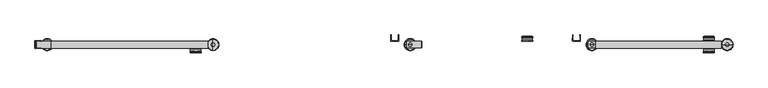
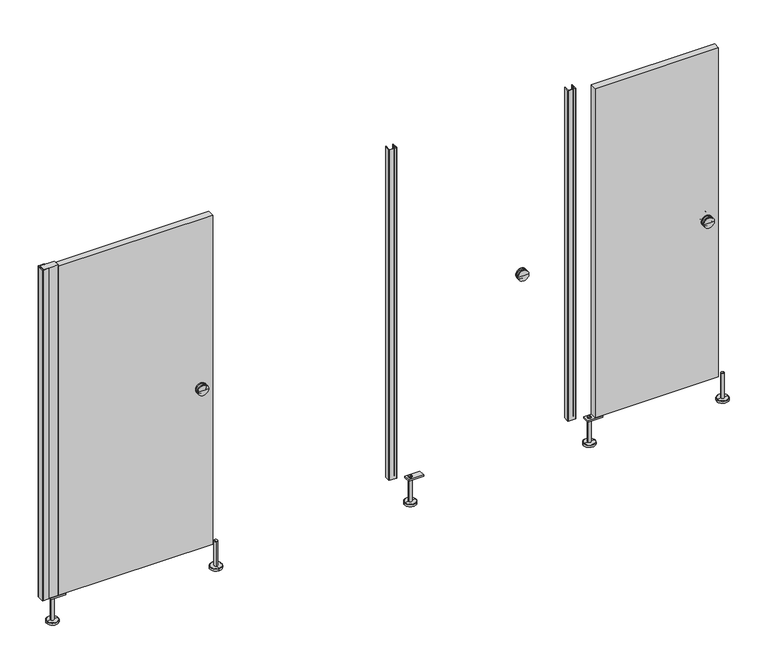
"""IFC4 building model written with IfcOpenShell, lengths in millimetres: proxy geometry, Partition_EuroStyle-Bradley_Corp-1AMB-4StandardStall-NEP-LOFT : Partition_EuroStyle-Bradley_Corp-1AMB-4StandardStall-NEP-LOFT."""

from ifc_helpers import new_model, si_unit, point, frame, frame_2d, origin, place, context, project, spatial, polyline, circle_curve, ellipse_curve, trimmed, segment, composite_curve, outline, extrude, source, transform, mapped, element, save
from ifc_brep_helpers import plane_surface, cylinder_surface, revolved_surface, advanced_brep


def specialty_equipment_0e989953(model_context):
    return source(origin(), model_context, "Body", "SolidModel", [
        advanced_brep(
        [(713.7, -1560.0203251, 1050.0), (742.275, -1560.0203251, 1050.0), (685.125, -1560.0203251, 1050.0), (742.275, -1564.7828251, 1050.0), (685.125, -1564.7828251, 1050.0), (685.125, -1579.0703251, 1050.0), (742.275, -1579.0703251, 1050.0), (742.275, -1583.8328251, 1050.0), (685.125, -1583.8328251, 1050.0), (686.7125, -1577.4828251, 1050.0), (740.6875, -1577.4828251, 1050.0), (686.7125, -1566.3703251, 1050.0), (740.6875, -1566.3703251, 1050.0), (713.7, -1585.4203251, 1050.0)],
        [
            (0, 1),
            (1, 2, circle_curve(frame((713.7, -1560.0203251, 1050.0), z_axis=(0.0, 1.0, 0.0), x_axis=(1.0, 0.0, 0.0)), 28.575)),
            (2, 0),
            (2, 1, circle_curve(frame((713.7, -1560.0203251, 1050.0), z_axis=(0.0, 1.0, 0.0), x_axis=(1.0, 0.0, 0.0)), 28.575)),
            (1, 3),
            (3, 4, circle_curve(frame((713.7, -1564.7828251, 1050.0), z_axis=(0.0, 1.0, 0.0), x_axis=(1.0, 0.0, 0.0)), 28.575)),
            (4, 2),
            (4, 3, circle_curve(frame((713.7, -1564.7828251, 1050.0), z_axis=(0.0, 1.0, 0.0), x_axis=(1.0, 0.0, 0.0)), 28.575)),
            (5, 6, circle_curve(frame((713.7, -1579.0703251, 1050.0), z_axis=(0.0, -1.0, 0.0), x_axis=(1.0, 0.0, 0.0)), 28.575)),
            (6, 7),
            (7, 8, circle_curve(frame((713.7, -1583.8328251, 1050.0), z_axis=(0.0, 1.0, 0.0), x_axis=(1.0, 0.0, 0.0)), 28.575)),
            (8, 5),
            (6, 5, circle_curve(frame((713.7, -1579.0703251, 1050.0), z_axis=(0.0, -1.0, 0.0), x_axis=(1.0, 0.0, 0.0)), 28.575)),
            (8, 7, circle_curve(frame((713.7, -1583.8328251, 1050.0), z_axis=(0.0, 1.0, 0.0), x_axis=(1.0, 0.0, 0.0)), 28.575)),
            (9, 10, circle_curve(frame((713.7, -1577.4828251, 1050.0), z_axis=(0.0, -1.0, 0.0), x_axis=(1.0, 0.0, 0.0)), 26.9875)),
            (10, 6, circle_curve(frame((742.275, -1577.4828251, 1050.0), z_axis=(0.0, 0.0, 1.0), x_axis=(1.0, 0.0, 0.0)), 1.5875)),
            (5, 9, circle_curve(frame((685.125, -1577.4828251, 1050.0), z_axis=(0.0, 0.0, 1.0), x_axis=(-1.0, 0.0, 0.0)), 1.5875)),
            (10, 9, circle_curve(frame((713.7, -1577.4828251, 1050.0), z_axis=(0.0, -1.0, 0.0), x_axis=(1.0, 0.0, 0.0)), 26.9875)),
            (11, 12, circle_curve(frame((713.7, -1566.3703251, 1050.0), z_axis=(0.0, -1.0, 0.0), x_axis=(1.0, 0.0, 0.0)), 26.9875)),
            (12, 10),
            (9, 11),
            (12, 11, circle_curve(frame((713.7, -1566.3703251, 1050.0), z_axis=(0.0, -1.0, 0.0), x_axis=(1.0, 0.0, 0.0)), 26.9875)),
            (3, 12, circle_curve(frame((742.275, -1566.3703251, 1050.0), z_axis=(0.0, 0.0, 1.0), x_axis=(1.0, 0.0, 0.0)), 1.5875)),
            (11, 4, circle_curve(frame((685.125, -1566.3703251, 1050.0), z_axis=(0.0, 0.0, 1.0), x_axis=(-1.0, 0.0, 0.0)), 1.5875)),
            (7, 13, circle_curve(frame((717.3941234, -1393.9457959, 1050.0), z_axis=(0.0, 0.0, -1.0), x_axis=(1.0, 0.0, 0.0)), 191.5101613)),
            (13, 8, circle_curve(frame((710.0058766, -1393.9457959, 1050.0), z_axis=(0.0, 0.0, -1.0), x_axis=(-1.0, 0.0, 0.0)), 191.5101613)),
        ],
        [
            plane_surface(frame((713.7, -1560.0203251, 1050.0), z_axis=(0.0, 1.0, 0.0), x_axis=(1.0, 0.0, 0.0))),
            cylinder_surface(frame((713.7, -1560.0203251, 1050.0), z_axis=(0.0, 1.0, 0.0), x_axis=(1.0, 0.0, 0.0)), 28.575),
            revolved_surface(trimmed(ellipse_curve(frame((742.275, -1577.4828251, 1050.0), z_axis=(0.0, 0.0, -1.0), x_axis=(1.0, 0.0, 0.0)), 1.5875, 1.5875), [point((742.275, -1579.0703251, 1050.0))], [point((740.6875, -1577.4828251, 1050.0))], True, "CARTESIAN"), (713.7, -1560.0203251, 1050.0), (0.0, 1.0, 0.0)),
            cylinder_surface(frame((713.7, -1560.0203251, 1050.0), z_axis=(0.0, 1.0, 0.0), x_axis=(1.0, 0.0, 0.0)), 26.9875),
            revolved_surface(trimmed(ellipse_curve(frame((742.275, -1566.3703251, 1050.0), z_axis=(0.0, 0.0, -1.0), x_axis=(1.0, 0.0, 0.0)), 1.5875, 1.5875), [point((740.6875, -1566.3703251, 1050.0))], [point((742.275, -1564.7828251, 1050.0))], True, "CARTESIAN"), (713.7, -1560.0203251, 1050.0), (0.0, 1.0, 0.0)),
            revolved_surface(trimmed(ellipse_curve(frame((717.3941234, -1393.9457959, 1050.0), z_axis=(0.0, 0.0, 1.0), x_axis=(1.0, 0.0, 0.0)), 191.5101613, 191.5101613), [point((713.7, -1585.4203251, 1050.0))], [point((742.275, -1583.8328251, 1050.0))], True, "CARTESIAN"), (713.7, -1560.0203251, 1050.0), (0.0, 1.0, 0.0)),
        ],
        [
            (0, [[1, 2, 3]]),
            (0, [[-3, 4, -1]]),
            (1, [[-2, 5, 6, 7]]),
            (1, [[-4, -7, 8, -5]]),
            (1, [[9, 10, 11, 12]]),
            (1, [[13, -12, 14, -10]]),
            (2, [[15, 16, -9, 17]]),
            (2, [[18, -17, -13, -16]]),
            (3, [[19, 20, -15, 21]]),
            (3, [[22, -21, -18, -20]]),
            (4, [[-6, 23, -19, 24]]),
            (4, [[-8, -24, -22, -23]]),
            (5, [[-11, 25, 26]]),
            (5, [[-14, -26, -25]]),
        ],
    ),
        extrude(outline(polyline([(-43.0030863, -1524.0), (777.2, -1524.0), (777.2, -1560.0203251), (-43.0030863, -1560.0203251), (-43.0030863, -1524.0)])), frame((0.0, 0.0, 150.1179687), z_axis=(0.0, 0.0, 1.0), x_axis=(1.0, 0.0, 0.0)), (0.0, 0.0, 1.0), 1845.8820313),
        extrude(outline(composite_curve([segment(polyline([(-94.4999998, -1521.518717), (-94.4999998, -1523.0173026)]), True, "CONTINUOUS"), segment(trimmed(circle_curve(frame_2d((-95.4990918, -1523.0137352)), 0.9990984), [point((-94.4999998, -1523.0173026))], [point((-96.3787798, -1523.4873879))], False, "CARTESIAN"), True, "CONTINUOUS"), segment(polyline([(-96.3787798, -1523.4873879), (-103.6424298, -1523.3662779)]), True, "CONTINUOUS"), segment(trimmed(circle_curve(frame_2d((-104.4999449, -1522.848732)), 1.0015917), [point((-103.6424298, -1523.3662779))], [point((-105.3742398, -1523.3373979))], False, "CARTESIAN"), True, "CONTINUOUS"), segment(polyline([(-105.3742398, -1523.3373979), (-123.0104531, -1523.0433424)]), True, "CONTINUOUS"), segment(trimmed(circle_curve(frame_2d((-122.9997796, -1525.0435342)), 2.0002204), [point((-123.0104531, -1523.0433424))], [point((-125.0, -1525.0435342))], True, "CARTESIAN"), True, "CONTINUOUS"), segment(polyline([(-125.0, -1525.0435342), (-125.0, -1558.9278332)]), True, "CONTINUOUS"), segment(trimmed(circle_curve(frame_2d((-123.0009061, -1558.9768528)), 1.9996948), [point((-125.0, -1558.9278332))], [point((-123.0, -1560.9765475))], True, "CARTESIAN"), True, "CONTINUOUS"), segment(polyline([(-123.0, -1560.9765475), (-105.3739987, -1560.6824961)]), True, "CONTINUOUS"), segment(trimmed(circle_curve(frame_2d((-104.4999449, -1561.1715932)), 1.0015917), [point((-105.3739987, -1560.6824961))], [point((-103.6424298, -1560.6540473))], False, "CARTESIAN"), True, "CONTINUOUS"), segment(polyline([(-103.6424298, -1560.6540473), (-96.3787798, -1560.5329373)]), True, "CONTINUOUS"), segment(trimmed(circle_curve(frame_2d((-95.4990918, -1561.0065899)), 0.9990984), [point((-96.3787798, -1560.5329373))], [point((-94.4999998, -1561.0030225))], False, "CARTESIAN"), True, "CONTINUOUS"), segment(polyline([(-94.4999998, -1561.0030225), (-94.4999998, -1562.5016081), (-124.97082, -1563.0099473)]), True, "CONTINUOUS"), segment(trimmed(circle_curve(frame_2d((-124.97082, -1560.9807672)), 2.02918), [point((-124.97082, -1563.0099473))], [point((-127.0, -1560.9807672))], False, "CARTESIAN"), True, "CONTINUOUS"), segment(polyline([(-127.0, -1560.9807672), (-127.0, -1523.0395579)]), True, "CONTINUOUS"), segment(trimmed(circle_curve(frame_2d((-124.97082, -1523.0395579)), 2.02918), [point((-127.0, -1523.0395579))], [point((-124.97082, -1521.0103779))], False, "CARTESIAN"), True, "CONTINUOUS"), segment(polyline([(-124.97082, -1521.0103779), (-94.4999998, -1521.518717)]), True, "CONTINUOUS")], self_intersect=False)), frame((0.0, 0.0, 150.0), z_axis=(0.0, 0.0, 1.0), x_axis=(1.0, 0.0, 0.0)), (0.0, 0.0, 1.0), 1855.0),
        extrude(outline(polyline([(146.0000008, -82.1018307), (138.0669895, -82.1018307), (138.0669895, -2.2545975), (146.0000008, -2.3531596), (146.0000008, -82.1018307)])), frame((0.0, -1559.4726626, 0.0), z_axis=(0.0, 1.0, 0.0), x_axis=(0.0, 0.0, 1.0)), (0.0, 0.0, 1.0), 34.925),
        advanced_brep(
        [(-54.5018316, -1542.0101626, 150.0000008), (-72.501831, -1542.0101626, 150.0000008), (-72.501831, -1542.0101626, 12.0000001), (-54.5018316, -1542.0101626, 12.0000001), (-63.5018313, -1542.0101626, 150.0000008), (-32.5018323, -1542.0101626, 0.0), (-94.5018302, -1542.0101626, 0.0), (-63.5018313, -1542.0101626, 0.0), (-32.5018323, -1542.0101626, 10.0000001), (-94.5018302, -1542.0101626, 10.0000001), (-34.5042443, -1542.0101626, 12.0000001), (-92.4994183, -1542.0101626, 12.0000001)],
        [
            (0, 1, circle_curve(frame((-63.5018313, -1542.0101626, 150.0000008), z_axis=(0.0, 0.0, -1.0), x_axis=(-1.0, 0.0, 0.0)), 8.9999997)),
            (1, 2),
            (2, 3, circle_curve(frame((-63.5018313, -1542.0101626, 12.0000001), z_axis=(0.0, 0.0, 1.0), x_axis=(-1.0, 0.0, 0.0)), 8.9999997)),
            (3, 0),
            (1, 0, circle_curve(frame((-63.5018313, -1542.0101626, 150.0000008), z_axis=(0.0, 0.0, -1.0), x_axis=(-1.0, 0.0, 0.0)), 8.9999997)),
            (3, 2, circle_curve(frame((-63.5018313, -1542.0101626, 12.0000001), z_axis=(0.0, 0.0, 1.0), x_axis=(-1.0, 0.0, 0.0)), 8.9999997)),
            (4, 1),
            (0, 4),
            (5, 6, circle_curve(frame((-63.5018313, -1542.0101626, 0.0), z_axis=(0.0, 0.0, -1.0), x_axis=(-1.0, 0.0, 0.0)), 30.9999989)),
            (6, 7),
            (7, 5),
            (6, 5, circle_curve(frame((-63.5018313, -1542.0101626, 0.0), z_axis=(0.0, 0.0, -1.0), x_axis=(-1.0, 0.0, 0.0)), 30.9999989)),
            (8, 9, circle_curve(frame((-63.5018313, -1542.0101626, 10.0000001), z_axis=(0.0, 0.0, -1.0), x_axis=(-1.0, 0.0, 0.0)), 30.9999989)),
            (9, 6),
            (5, 8),
            (9, 8, circle_curve(frame((-63.5018313, -1542.0101626, 10.0000001), z_axis=(0.0, 0.0, -1.0), x_axis=(-1.0, 0.0, 0.0)), 30.9999989)),
            (10, 11, circle_curve(frame((-63.5018313, -1542.0101626, 12.0000001), z_axis=(0.0, 0.0, -1.0), x_axis=(-1.0, 0.0, 0.0)), 28.997587)),
            (11, 9),
            (8, 10),
            (11, 10, circle_curve(frame((-63.5018313, -1542.0101626, 12.0000001), z_axis=(0.0, 0.0, -1.0), x_axis=(-1.0, 0.0, 0.0)), 28.997587)),
            (2, 11),
            (10, 3),
        ],
        [
            cylinder_surface(frame((-63.5018313, -1542.0101626, 0.0), z_axis=(0.0, 0.0, 1.0), x_axis=(-1.0, 0.0, 0.0)), 8.9999997),
            plane_surface(frame((-63.5018313, -1542.0101626, 150.0000008), z_axis=(0.0, 0.0, 1.0), x_axis=(-1.0, 0.0, 0.0))),
            plane_surface(frame((-63.5018313, -1542.0101626, 0.0), z_axis=(0.0, 0.0, -1.0), x_axis=(-1.0, 0.0, 0.0))),
            cylinder_surface(frame((-63.5018313, -1542.0101626, 0.0), z_axis=(0.0, 0.0, 1.0), x_axis=(-1.0, 0.0, 0.0)), 30.9999989),
            revolved_surface(polyline([(-94.5018302, -1542.0101626, 10.0000001), (-92.4994183, -1542.0101626, 12.0000001)]), (-63.5018313, -1542.0101626, 0.0), (0.0, 0.0, 1.0)),
            plane_surface(frame((-63.5018313, -1542.0101626, 12.0000001), z_axis=(0.0, 0.0, 1.0), x_axis=(-1.0, 0.0, 0.0))),
        ],
        [
            (0, [[1, 2, 3, 4]]),
            (0, [[5, -4, 6, -2]]),
            (1, [[7, -1, 8]]),
            (1, [[-8, -5, -7]]),
            (2, [[9, 10, 11]]),
            (2, [[12, -11, -10]]),
            (3, [[13, 14, -9, 15]]),
            (3, [[16, -15, -12, -14]]),
            (4, [[17, 18, -13, 19]]),
            (4, [[20, -19, -16, -18]]),
            (5, [[-3, 21, -17, 22]]),
            (5, [[-6, -22, -20, -21]]),
        ],
    ),
        extrude(outline(polyline([(-117.000072, -1524.0), (-43.0032348, -1524.0), (-43.0032348, -1560.0203251), (-117.000072, -1560.0203251), (-117.000072, -1524.0)])), frame((0.0, 0.0, 150.0), z_axis=(0.0, 0.0, 1.0), x_axis=(1.0, 0.0, 0.0)), (0.0, 0.0, 1.0), 1855.0),
        advanced_brep(
        [(804.7217652, -1532.9996552, 150.0000008), (804.7217652, -1550.9996545, 150.0000008), (804.7217652, -1550.9996545, 12.0000001), (804.7217652, -1532.9996552, 12.0000001), (804.7217652, -1541.9996549, 150.0000008), (804.7217652, -1510.9996559, 0.0), (804.7217652, -1572.9996538, 0.0), (804.7217652, -1541.9996549, 0.0), (804.7217652, -1510.9996559, 10.0000001), (804.7217652, -1572.9996538, 10.0000001), (804.7217652, -1513.0020678, 12.0000001), (804.7217652, -1570.9972419, 12.0000001)],
        [
            (0, 1, circle_curve(frame((804.7217652, -1541.9996549, 150.0000008), z_axis=(0.0, 0.0, -1.0), x_axis=(0.0, -1.0, 0.0)), 8.9999997)),
            (1, 2),
            (2, 3, circle_curve(frame((804.7217652, -1541.9996549, 12.0000001), z_axis=(0.0, 0.0, 1.0), x_axis=(0.0, -1.0, 0.0)), 8.9999997)),
            (3, 0),
            (1, 0, circle_curve(frame((804.7217652, -1541.9996549, 150.0000008), z_axis=(0.0, 0.0, -1.0), x_axis=(0.0, -1.0, 0.0)), 8.9999997)),
            (3, 2, circle_curve(frame((804.7217652, -1541.9996549, 12.0000001), z_axis=(0.0, 0.0, 1.0), x_axis=(0.0, -1.0, 0.0)), 8.9999997)),
            (4, 1),
            (0, 4),
            (5, 6, circle_curve(frame((804.7217652, -1541.9996549, 0.0), z_axis=(0.0, 0.0, -1.0), x_axis=(0.0, -1.0, 0.0)), 30.9999989)),
            (6, 7),
            (7, 5),
            (6, 5, circle_curve(frame((804.7217652, -1541.9996549, 0.0), z_axis=(0.0, 0.0, -1.0), x_axis=(0.0, -1.0, 0.0)), 30.9999989)),
            (8, 9, circle_curve(frame((804.7217652, -1541.9996549, 10.0000001), z_axis=(0.0, 0.0, -1.0), x_axis=(0.0, -1.0, 0.0)), 30.9999989)),
            (9, 6),
            (5, 8),
            (9, 8, circle_curve(frame((804.7217652, -1541.9996549, 10.0000001), z_axis=(0.0, 0.0, -1.0), x_axis=(0.0, -1.0, 0.0)), 30.9999989)),
            (10, 11, circle_curve(frame((804.7217652, -1541.9996549, 12.0000001), z_axis=(0.0, 0.0, -1.0), x_axis=(0.0, -1.0, 0.0)), 28.997587)),
            (11, 9),
            (8, 10),
            (11, 10, circle_curve(frame((804.7217652, -1541.9996549, 12.0000001), z_axis=(0.0, 0.0, -1.0), x_axis=(0.0, -1.0, 0.0)), 28.997587)),
            (2, 11),
            (10, 3),
        ],
        [
            cylinder_surface(frame((804.7217652, -1541.9996549, 0.0), z_axis=(0.0, 0.0, 1.0), x_axis=(0.0, -1.0, 0.0)), 8.9999997),
            plane_surface(frame((804.7217652, -1541.9996549, 150.0000008), z_axis=(0.0, 0.0, 1.0), x_axis=(0.0, -1.0, 0.0))),
            plane_surface(frame((804.7217652, -1541.9996549, 0.0), z_axis=(0.0, 0.0, -1.0), x_axis=(0.0, -1.0, 0.0))),
            cylinder_surface(frame((804.7217652, -1541.9996549, 0.0), z_axis=(0.0, 0.0, 1.0), x_axis=(0.0, -1.0, 0.0)), 30.9999989),
            revolved_surface(polyline([(804.7217652, -1572.9996538, 10.0000001), (804.7217652, -1570.9972419, 12.0000001)]), (804.7217652, -1541.9996549, 0.0), (0.0, 0.0, 1.0)),
            plane_surface(frame((804.7217652, -1541.9996549, 12.0000001), z_axis=(0.0, 0.0, 1.0), x_axis=(0.0, -1.0, 0.0))),
        ],
        [
            (0, [[1, 2, 3, 4]]),
            (0, [[5, -4, 6, -2]]),
            (1, [[7, -1, 8]]),
            (1, [[-8, -5, -7]]),
            (2, [[9, 10, 11]]),
            (2, [[12, -11, -10]]),
            (3, [[13, 14, -9, 15]]),
            (3, [[16, -15, -12, -14]]),
            (4, [[17, 18, -13, 19]]),
            (4, [[20, -19, -16, -18]]),
            (5, [[-3, 21, -17, 22]]),
            (5, [[-6, -22, -20, -21]]),
        ],
    ),
        extrude(outline(polyline([(146.0000008, 2768.6203258), (138.0669895, 2768.6203258), (138.0669895, 2848.4675589), (146.0000008, 2848.3689968), (146.0000008, 2768.6203258)])), frame((0.0, -1559.4621549, 0.0), z_axis=(0.0, 1.0, 0.0), x_axis=(0.0, 0.0, 1.0)), (0.0, 0.0, 1.0), 34.925),
        advanced_brep(
        [(2796.2203248, -1541.9996549, 150.0000008), (2778.2203255, -1541.9996549, 150.0000008), (2778.2203255, -1541.9996549, 12.0000001), (2796.2203248, -1541.9996549, 12.0000001), (2787.2203251, -1541.9996549, 150.0000008), (2818.2203241, -1541.9996549, 0.0), (2756.2203262, -1541.9996549, 0.0), (2787.2203251, -1541.9996549, 0.0), (2818.2203241, -1541.9996549, 10.0000001), (2756.2203262, -1541.9996549, 10.0000001), (2816.2179122, -1541.9996549, 12.0000001), (2758.2227381, -1541.9996549, 12.0000001)],
        [
            (0, 1, circle_curve(frame((2787.2203251, -1541.9996549, 150.0000008), z_axis=(0.0, 0.0, -1.0), x_axis=(-1.0, 0.0, 0.0)), 8.9999997)),
            (1, 2),
            (2, 3, circle_curve(frame((2787.2203251, -1541.9996549, 12.0000001), z_axis=(0.0, 0.0, 1.0), x_axis=(-1.0, 0.0, 0.0)), 8.9999997)),
            (3, 0),
            (1, 0, circle_curve(frame((2787.2203251, -1541.9996549, 150.0000008), z_axis=(0.0, 0.0, -1.0), x_axis=(-1.0, 0.0, 0.0)), 8.9999997)),
            (3, 2, circle_curve(frame((2787.2203251, -1541.9996549, 12.0000001), z_axis=(0.0, 0.0, 1.0), x_axis=(-1.0, 0.0, 0.0)), 8.9999997)),
            (4, 1),
            (0, 4),
            (5, 6, circle_curve(frame((2787.2203251, -1541.9996549, 0.0), z_axis=(0.0, 0.0, -1.0), x_axis=(-1.0, 0.0, 0.0)), 30.9999989)),
            (6, 7),
            (7, 5),
            (6, 5, circle_curve(frame((2787.2203251, -1541.9996549, 0.0), z_axis=(0.0, 0.0, -1.0), x_axis=(-1.0, 0.0, 0.0)), 30.9999989)),
            (8, 9, circle_curve(frame((2787.2203251, -1541.9996549, 10.0000001), z_axis=(0.0, 0.0, -1.0), x_axis=(-1.0, 0.0, 0.0)), 30.9999989)),
            (9, 6),
            (5, 8),
            (9, 8, circle_curve(frame((2787.2203251, -1541.9996549, 10.0000001), z_axis=(0.0, 0.0, -1.0), x_axis=(-1.0, 0.0, 0.0)), 30.9999989)),
            (10, 11, circle_curve(frame((2787.2203251, -1541.9996549, 12.0000001), z_axis=(0.0, 0.0, -1.0), x_axis=(-1.0, 0.0, 0.0)), 28.997587)),
            (11, 9),
            (8, 10),
            (11, 10, circle_curve(frame((2787.2203251, -1541.9996549, 12.0000001), z_axis=(0.0, 0.0, -1.0), x_axis=(-1.0, 0.0, 0.0)), 28.997587)),
            (2, 11),
            (10, 3),
        ],
        [
            cylinder_surface(frame((2787.2203251, -1541.9996549, 0.0), z_axis=(0.0, 0.0, 1.0), x_axis=(-1.0, 0.0, 0.0)), 8.9999997),
            plane_surface(frame((2787.2203251, -1541.9996549, 150.0000008), z_axis=(0.0, 0.0, 1.0), x_axis=(-1.0, 0.0, 0.0))),
            plane_surface(frame((2787.2203251, -1541.9996549, 0.0), z_axis=(0.0, 0.0, -1.0), x_axis=(-1.0, 0.0, 0.0))),
            cylinder_surface(frame((2787.2203251, -1541.9996549, 0.0), z_axis=(0.0, 0.0, 1.0), x_axis=(-1.0, 0.0, 0.0)), 30.9999989),
            revolved_surface(polyline([(2756.2203262, -1541.9996549, 10.0000001), (2758.2227381, -1541.9996549, 12.0000001)]), (2787.2203251, -1541.9996549, 0.0), (0.0, 0.0, 1.0)),
            plane_surface(frame((2787.2203251, -1541.9996549, 12.0000001), z_axis=(0.0, 0.0, 1.0), x_axis=(-1.0, 0.0, 0.0))),
        ],
        [
            (0, [[1, 2, 3, 4]]),
            (0, [[5, -4, 6, -2]]),
            (1, [[7, -1, 8]]),
            (1, [[-8, -5, -7]]),
            (2, [[9, 10, 11]]),
            (2, [[12, -11, -10]]),
            (3, [[13, 14, -9, 15]]),
            (3, [[16, -15, -12, -14]]),
            (4, [[17, 18, -13, 19]]),
            (4, [[20, -19, -16, -18]]),
            (5, [[-3, 21, -17, 22]]),
            (5, [[-6, -22, -20, -21]]),
        ],
    ),
        extrude(outline(polyline([(146.0000008, 1818.2203258), (138.0669895, 1818.2203258), (138.0669895, 1898.0675589), (146.0000008, 1897.9689968), (146.0000008, 1818.2203258)])), frame((0.0, -1559.4621549, 0.0), z_axis=(0.0, 1.0, 0.0), x_axis=(0.0, 0.0, 1.0)), (0.0, 0.0, 1.0), 34.925),
        advanced_brep(
        [(1845.8203248, -1541.9996549, 150.0000008), (1827.8203255, -1541.9996549, 150.0000008), (1827.8203255, -1541.9996549, 12.0000001), (1845.8203248, -1541.9996549, 12.0000001), (1836.8203251, -1541.9996549, 150.0000008), (1867.8203241, -1541.9996549, 0.0), (1805.8203262, -1541.9996549, 0.0), (1836.8203251, -1541.9996549, 0.0), (1867.8203241, -1541.9996549, 10.0000001), (1805.8203262, -1541.9996549, 10.0000001), (1865.8179122, -1541.9996549, 12.0000001), (1807.8227381, -1541.9996549, 12.0000001)],
        [
            (0, 1, circle_curve(frame((1836.8203251, -1541.9996549, 150.0000008), z_axis=(0.0, 0.0, -1.0), x_axis=(-1.0, 0.0, 0.0)), 8.9999997)),
            (1, 2),
            (2, 3, circle_curve(frame((1836.8203251, -1541.9996549, 12.0000001), z_axis=(0.0, 0.0, 1.0), x_axis=(-1.0, 0.0, 0.0)), 8.9999997)),
            (3, 0),
            (1, 0, circle_curve(frame((1836.8203251, -1541.9996549, 150.0000008), z_axis=(0.0, 0.0, -1.0), x_axis=(-1.0, 0.0, 0.0)), 8.9999997)),
            (3, 2, circle_curve(frame((1836.8203251, -1541.9996549, 12.0000001), z_axis=(0.0, 0.0, 1.0), x_axis=(-1.0, 0.0, 0.0)), 8.9999997)),
            (4, 1),
            (0, 4),
            (5, 6, circle_curve(frame((1836.8203251, -1541.9996549, 0.0), z_axis=(0.0, 0.0, -1.0), x_axis=(-1.0, 0.0, 0.0)), 30.9999989)),
            (6, 7),
            (7, 5),
            (6, 5, circle_curve(frame((1836.8203251, -1541.9996549, 0.0), z_axis=(0.0, 0.0, -1.0), x_axis=(-1.0, 0.0, 0.0)), 30.9999989)),
            (8, 9, circle_curve(frame((1836.8203251, -1541.9996549, 10.0000001), z_axis=(0.0, 0.0, -1.0), x_axis=(-1.0, 0.0, 0.0)), 30.9999989)),
            (9, 6),
            (5, 8),
            (9, 8, circle_curve(frame((1836.8203251, -1541.9996549, 10.0000001), z_axis=(0.0, 0.0, -1.0), x_axis=(-1.0, 0.0, 0.0)), 30.9999989)),
            (10, 11, circle_curve(frame((1836.8203251, -1541.9996549, 12.0000001), z_axis=(0.0, 0.0, -1.0), x_axis=(-1.0, 0.0, 0.0)), 28.997587)),
            (11, 9),
            (8, 10),
            (11, 10, circle_curve(frame((1836.8203251, -1541.9996549, 12.0000001), z_axis=(0.0, 0.0, -1.0), x_axis=(-1.0, 0.0, 0.0)), 28.997587)),
            (2, 11),
            (10, 3),
        ],
        [
            cylinder_surface(frame((1836.8203251, -1541.9996549, 0.0), z_axis=(0.0, 0.0, 1.0), x_axis=(-1.0, 0.0, 0.0)), 8.9999997),
            plane_surface(frame((1836.8203251, -1541.9996549, 150.0000008), z_axis=(0.0, 0.0, 1.0), x_axis=(-1.0, 0.0, 0.0))),
            plane_surface(frame((1836.8203251, -1541.9996549, 0.0), z_axis=(0.0, 0.0, -1.0), x_axis=(-1.0, 0.0, 0.0))),
            cylinder_surface(frame((1836.8203251, -1541.9996549, 0.0), z_axis=(0.0, 0.0, 1.0), x_axis=(-1.0, 0.0, 0.0)), 30.9999989),
            revolved_surface(polyline([(1805.8203262, -1541.9996549, 10.0000001), (1807.8227381, -1541.9996549, 12.0000001)]), (1836.8203251, -1541.9996549, 0.0), (0.0, 0.0, 1.0)),
            plane_surface(frame((1836.8203251, -1541.9996549, 12.0000001), z_axis=(0.0, 0.0, 1.0), x_axis=(-1.0, 0.0, 0.0))),
        ],
        [
            (0, [[1, 2, 3, 4]]),
            (0, [[5, -4, 6, -2]]),
            (1, [[7, -1, 8]]),
            (1, [[-8, -5, -7]]),
            (2, [[9, 10, 11]]),
            (2, [[12, -11, -10]]),
            (3, [[13, 14, -9, 15]]),
            (3, [[16, -15, -12, -14]]),
            (4, [[17, 18, -13, 19]]),
            (4, [[20, -19, -16, -18]]),
            (5, [[-3, 21, -17, 22]]),
            (5, [[-6, -22, -20, -21]]),
        ],
    ),
        advanced_brep(
        [(3370.7471564, -1524.0098174, 1050.0), (3427.8971564, -1524.0098174, 1050.0), (3399.3221564, -1524.0098174, 1050.0), (3370.7471564, -1519.2473174, 1050.0), (3427.8971564, -1519.2473174, 1050.0), (3370.7471564, -1500.1973174, 1050.0), (3427.8971564, -1500.1973174, 1050.0), (3427.8971564, -1504.9598174, 1050.0), (3370.7471564, -1504.9598174, 1050.0), (3426.3096564, -1506.5473174, 1050.0), (3372.3346564, -1506.5473174, 1050.0), (3426.3096564, -1517.6598174, 1050.0), (3372.3346564, -1517.6598174, 1050.0), (3399.3221564, -1498.6098174, 1050.0)],
        [
            (0, 1, circle_curve(frame((3399.3221564, -1524.0098174, 1050.0), z_axis=(0.0, -1.0, 0.0), x_axis=(1.0000000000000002, 0.0, 0.0)), 28.575)),
            (1, 2),
            (2, 0),
            (1, 0, circle_curve(frame((3399.3221564, -1524.0098174, 1050.0), z_axis=(0.0, -1.0, 0.0), x_axis=(1.0000000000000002, 0.0, 0.0)), 28.575)),
            (3, 4, circle_curve(frame((3399.3221564, -1519.2473174, 1050.0), z_axis=(0.0, -1.0, 0.0), x_axis=(1.0000000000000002, 0.0, 0.0)), 28.575)),
            (4, 1),
            (0, 3),
            (4, 3, circle_curve(frame((3399.3221564, -1519.2473174, 1050.0), z_axis=(0.0, -1.0, 0.0), x_axis=(1.0000000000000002, 0.0, 0.0)), 28.575)),
            (5, 6, circle_curve(frame((3399.3221564, -1500.1973174, 1050.0), z_axis=(0.0, -1.0, 0.0), x_axis=(1.0000000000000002, 0.0, 0.0)), 28.575)),
            (6, 7),
            (7, 8, circle_curve(frame((3399.3221564, -1504.9598174, 1050.0), z_axis=(0.0, 1.0, 0.0), x_axis=(1.0000000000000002, 0.0, 0.0)), 28.575)),
            (8, 5),
            (6, 5, circle_curve(frame((3399.3221564, -1500.1973174, 1050.0), z_axis=(0.0, -1.0, 0.0), x_axis=(1.0000000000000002, 0.0, 0.0)), 28.575)),
            (8, 7, circle_curve(frame((3399.3221564, -1504.9598174, 1050.0), z_axis=(0.0, 1.0, 0.0), x_axis=(1.0000000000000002, 0.0, 0.0)), 28.575)),
            (7, 9, circle_curve(frame((3427.8971564, -1506.5473174, 1050.0), z_axis=(0.0, 0.0, 1.0), x_axis=(1.0000000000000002, 0.0, 0.0)), 1.5875)),
            (9, 10, circle_curve(frame((3399.3221564, -1506.5473174, 1050.0), z_axis=(0.0, 1.0, 0.0), x_axis=(1.0000000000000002, 0.0, 0.0)), 26.9875)),
            (10, 8, circle_curve(frame((3370.7471564, -1506.5473174, 1050.0), z_axis=(0.0, 0.0, 1.0), x_axis=(-1.0000000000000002, 0.0, 0.0)), 1.5875)),
            (10, 9, circle_curve(frame((3399.3221564, -1506.5473174, 1050.0), z_axis=(0.0, 1.0, 0.0), x_axis=(1.0000000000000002, 0.0, 0.0)), 26.9875)),
            (9, 11),
            (11, 12, circle_curve(frame((3399.3221564, -1517.6598174, 1050.0), z_axis=(0.0, 1.0, 0.0), x_axis=(1.0000000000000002, 0.0, 0.0)), 26.9875)),
            (12, 10),
            (12, 11, circle_curve(frame((3399.3221564, -1517.6598174, 1050.0), z_axis=(0.0, 1.0, 0.0), x_axis=(1.0000000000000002, 0.0, 0.0)), 26.9875)),
            (11, 4, circle_curve(frame((3427.8971564, -1517.6598174, 1050.0), z_axis=(0.0, 0.0, 1.0), x_axis=(1.0000000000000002, 0.0, 0.0)), 1.5875)),
            (3, 12, circle_curve(frame((3370.7471564, -1517.6598174, 1050.0), z_axis=(0.0, 0.0, 1.0), x_axis=(-1.0000000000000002, 0.0, 0.0)), 1.5875)),
            (13, 6, circle_curve(frame((3403.0162798, -1690.0843466, 1050.0), z_axis=(0.0, 0.0, -1.0), x_axis=(1.0000000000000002, 0.0, 0.0)), 191.5101613)),
            (5, 13, circle_curve(frame((3395.6280331, -1690.0843466, 1050.0), z_axis=(0.0, 0.0, -1.0), x_axis=(-1.0000000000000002, 0.0, 0.0)), 191.5101613)),
        ],
        [
            plane_surface(frame((3399.3221564, -1524.0098174, 1050.0), z_axis=(0.0, -1.0, 0.0), x_axis=(1.0, 0.0, 0.0))),
            cylinder_surface(frame((3399.3221564, -1524.0098174, 1050.0), z_axis=(0.0, 1.0000000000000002, 0.0), x_axis=(1.0000000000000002, 0.0, 0.0)), 28.575),
            revolved_surface(trimmed(ellipse_curve(frame((3427.8971564, -1506.5473174, 1050.0), z_axis=(0.0, 0.0, -1.0), x_axis=(1.0000000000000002, 0.0, 0.0)), 1.5875, 1.5875), [point((3426.3096564, -1506.5473174, 1050.0))], [point((3427.8971564, -1504.9598174, 1050.0))], True, "CARTESIAN"), (3399.3221564, -1524.0098174, 1050.0), (0.0, 1.0000000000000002, 0.0)),
            cylinder_surface(frame((3399.3221564, -1524.0098174, 1050.0), z_axis=(0.0, 1.0000000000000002, 0.0), x_axis=(1.0000000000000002, 0.0, 0.0)), 26.9875),
            revolved_surface(trimmed(ellipse_curve(frame((3427.8971564, -1517.6598174, 1050.0), z_axis=(0.0, 0.0, -1.0), x_axis=(1.0000000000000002, 0.0, 0.0)), 1.5875, 1.5875), [point((3427.8971564, -1519.2473174, 1050.0))], [point((3426.3096564, -1517.6598174, 1050.0))], True, "CARTESIAN"), (3399.3221564, -1524.0098174, 1050.0), (0.0, 1.0000000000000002, 0.0)),
            revolved_surface(trimmed(ellipse_curve(frame((3403.0162798, -1690.0843466, 1050.0), z_axis=(0.0, 0.0, 1.0), x_axis=(1.0000000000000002, 0.0, 0.0)), 191.5101613, 191.5101613), [point((3427.8971564, -1500.1973174, 1050.0))], [point((3399.3221564, -1498.6098174, 1050.0))], True, "CARTESIAN"), (3399.3221564, -1524.0098174, 1050.0), (0.0, 1.0000000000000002, 0.0)),
        ],
        [
            (0, [[1, 2, 3]]),
            (0, [[4, -3, -2]]),
            (1, [[5, 6, -1, 7]]),
            (1, [[8, -7, -4, -6]]),
            (1, [[9, 10, 11, 12]]),
            (1, [[13, -12, 14, -10]]),
            (2, [[-11, 15, 16, 17]]),
            (2, [[-14, -17, 18, -15]]),
            (3, [[-16, 19, 20, 21]]),
            (3, [[-18, -21, 22, -19]]),
            (4, [[-20, 23, -5, 24]]),
            (4, [[-22, -24, -8, -23]]),
            (5, [[25, -9, 26]]),
            (5, [[-26, -13, -25]]),
        ],
    ),
        advanced_brep(
        [(3399.3221564, -1560.0098174, 1050.0), (3427.8971564, -1560.0098174, 1050.0), (3370.7471564, -1560.0098174, 1050.0), (3427.8971564, -1564.7723174, 1050.0), (3370.7471564, -1564.7723174, 1050.0), (3370.7471564, -1579.0598174, 1050.0), (3427.8971564, -1579.0598174, 1050.0), (3427.8971564, -1583.8223174, 1050.0), (3370.7471564, -1583.8223174, 1050.0), (3372.3346564, -1577.4723174, 1050.0), (3426.3096564, -1577.4723174, 1050.0), (3372.3346564, -1566.3598174, 1050.0), (3426.3096564, -1566.3598174, 1050.0), (3399.3221564, -1585.4098174, 1050.0)],
        [
            (0, 1),
            (1, 2, circle_curve(frame((3399.3221564, -1560.0098174, 1050.0), z_axis=(0.0, 1.0, 0.0), x_axis=(1.0000000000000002, 0.0, 0.0)), 28.575)),
            (2, 0),
            (2, 1, circle_curve(frame((3399.3221564, -1560.0098174, 1050.0), z_axis=(0.0, 1.0, 0.0), x_axis=(1.0000000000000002, 0.0, 0.0)), 28.575)),
            (1, 3),
            (3, 4, circle_curve(frame((3399.3221564, -1564.7723174, 1050.0), z_axis=(0.0, 1.0, 0.0), x_axis=(1.0000000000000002, 0.0, 0.0)), 28.575)),
            (4, 2),
            (4, 3, circle_curve(frame((3399.3221564, -1564.7723174, 1050.0), z_axis=(0.0, 1.0, 0.0), x_axis=(1.0000000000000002, 0.0, 0.0)), 28.575)),
            (5, 6, circle_curve(frame((3399.3221564, -1579.0598174, 1050.0), z_axis=(0.0, -1.0, 0.0), x_axis=(1.0000000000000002, 0.0, 0.0)), 28.575)),
            (6, 7),
            (7, 8, circle_curve(frame((3399.3221564, -1583.8223174, 1050.0), z_axis=(0.0, 1.0, 0.0), x_axis=(1.0000000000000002, 0.0, 0.0)), 28.575)),
            (8, 5),
            (6, 5, circle_curve(frame((3399.3221564, -1579.0598174, 1050.0), z_axis=(0.0, -1.0, 0.0), x_axis=(1.0000000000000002, 0.0, 0.0)), 28.575)),
            (8, 7, circle_curve(frame((3399.3221564, -1583.8223174, 1050.0), z_axis=(0.0, 1.0, 0.0), x_axis=(1.0000000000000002, 0.0, 0.0)), 28.575)),
            (9, 10, circle_curve(frame((3399.3221564, -1577.4723174, 1050.0), z_axis=(0.0, -1.0, 0.0), x_axis=(1.0000000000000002, 0.0, 0.0)), 26.9875)),
            (10, 6, circle_curve(frame((3427.8971564, -1577.4723174, 1050.0), z_axis=(0.0, 0.0, 1.0), x_axis=(1.0000000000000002, 0.0, 0.0)), 1.5875)),
            (5, 9, circle_curve(frame((3370.7471564, -1577.4723174, 1050.0), z_axis=(0.0, 0.0, 1.0), x_axis=(-1.0000000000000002, 0.0, 0.0)), 1.5875)),
            (10, 9, circle_curve(frame((3399.3221564, -1577.4723174, 1050.0), z_axis=(0.0, -1.0, 0.0), x_axis=(1.0000000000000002, 0.0, 0.0)), 26.9875)),
            (11, 12, circle_curve(frame((3399.3221564, -1566.3598174, 1050.0), z_axis=(0.0, -1.0, 0.0), x_axis=(1.0000000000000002, 0.0, 0.0)), 26.9875)),
            (12, 10),
            (9, 11),
            (12, 11, circle_curve(frame((3399.3221564, -1566.3598174, 1050.0), z_axis=(0.0, -1.0, 0.0), x_axis=(1.0000000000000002, 0.0, 0.0)), 26.9875)),
            (3, 12, circle_curve(frame((3427.8971564, -1566.3598174, 1050.0), z_axis=(0.0, 0.0, 1.0), x_axis=(1.0000000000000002, 0.0, 0.0)), 1.5875)),
            (11, 4, circle_curve(frame((3370.7471564, -1566.3598174, 1050.0), z_axis=(0.0, 0.0, 1.0), x_axis=(-1.0000000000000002, 0.0, 0.0)), 1.5875)),
            (7, 13, circle_curve(frame((3403.0162798, -1393.9352882, 1050.0), z_axis=(0.0, 0.0, -1.0), x_axis=(1.0000000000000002, 0.0, 0.0)), 191.5101613)),
            (13, 8, circle_curve(frame((3395.6280331, -1393.9352882, 1050.0), z_axis=(0.0, 0.0, -1.0), x_axis=(-1.0000000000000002, 0.0, 0.0)), 191.5101613)),
        ],
        [
            plane_surface(frame((3399.3221564, -1560.0098174, 1050.0), z_axis=(0.0, 1.0, 0.0), x_axis=(1.0, 0.0, 0.0))),
            cylinder_surface(frame((3399.3221564, -1560.0098174, 1050.0), z_axis=(0.0, 1.0000000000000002, 0.0), x_axis=(1.0000000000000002, 0.0, 0.0)), 28.575),
            revolved_surface(trimmed(ellipse_curve(frame((3427.8971564, -1577.4723174, 1050.0), z_axis=(0.0, 0.0, -1.0), x_axis=(1.0000000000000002, 0.0, 0.0)), 1.5875, 1.5875), [point((3427.8971564, -1579.0598174, 1050.0))], [point((3426.3096564, -1577.4723174, 1050.0))], True, "CARTESIAN"), (3399.3221564, -1560.0098174, 1050.0), (0.0, 1.0000000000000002, 0.0)),
            cylinder_surface(frame((3399.3221564, -1560.0098174, 1050.0), z_axis=(0.0, 1.0000000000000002, 0.0), x_axis=(1.0000000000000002, 0.0, 0.0)), 26.9875),
            revolved_surface(trimmed(ellipse_curve(frame((3427.8971564, -1566.3598174, 1050.0), z_axis=(0.0, 0.0, -1.0), x_axis=(1.0000000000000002, 0.0, 0.0)), 1.5875, 1.5875), [point((3426.3096564, -1566.3598174, 1050.0))], [point((3427.8971564, -1564.7723174, 1050.0))], True, "CARTESIAN"), (3399.3221564, -1560.0098174, 1050.0), (0.0, 1.0000000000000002, 0.0)),
            revolved_surface(trimmed(ellipse_curve(frame((3403.0162798, -1393.9352882, 1050.0), z_axis=(0.0, 0.0, 1.0), x_axis=(1.0000000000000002, 0.0, 0.0)), 191.5101613, 191.5101613), [point((3399.3221564, -1585.4098174, 1050.0))], [point((3427.8971564, -1583.8223174, 1050.0))], True, "CARTESIAN"), (3399.3221564, -1560.0098174, 1050.0), (0.0, 1.0000000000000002, 0.0)),
        ],
        [
            (0, [[1, 2, 3]]),
            (0, [[-3, 4, -1]]),
            (1, [[-2, 5, 6, 7]]),
            (1, [[-4, -7, 8, -5]]),
            (1, [[9, 10, 11, 12]]),
            (1, [[13, -12, 14, -10]]),
            (2, [[15, 16, -9, 17]]),
            (2, [[18, -17, -13, -16]]),
            (3, [[19, 20, -15, 21]]),
            (3, [[22, -21, -18, -20]]),
            (4, [[-6, 23, -19, 24]]),
            (4, [[-8, -24, -22, -23]]),
            (5, [[-11, 25, 26]]),
            (5, [[-14, -26, -25]]),
        ],
    ),
        extrude(outline(polyline([(2808.2170903, -1523.9894923), (3462.8221564, -1523.9894923), (3462.8221564, -1560.0098174), (2808.2170903, -1560.0098174), (2808.2170903, -1523.9894923)])), frame((0.0, 0.0, 150.1179687), z_axis=(0.0, 0.0, 1.0), x_axis=(1.0, 0.0, 0.0)), (0.0, 0.0, 1.0), 1845.8820313),
        extrude(outline(composite_curve([segment(polyline([(2685.7288796, -1491.4999998), (2687.2274652, -1491.4999998)]), True, "CONTINUOUS"), segment(trimmed(circle_curve(frame_2d((2687.2238978, -1492.4990918)), 0.9990984), [point((2687.2274652, -1491.4999998))], [point((2687.6975504, -1493.3787798))], False, "CARTESIAN"), True, "CONTINUOUS"), segment(polyline([(2687.6975504, -1493.3787798), (2687.5764404, -1500.6424298)]), True, "CONTINUOUS"), segment(trimmed(circle_curve(frame_2d((2687.0588945, -1501.4999449)), 1.0015917), [point((2687.5764404, -1500.6424298))], [point((2687.5475604, -1502.3742398))], False, "CARTESIAN"), True, "CONTINUOUS"), segment(polyline([(2687.5475604, -1502.3742398), (2687.2535049, -1520.0104531)]), True, "CONTINUOUS"), segment(trimmed(circle_curve(frame_2d((2689.2536968, -1519.9997796)), 2.0002204), [point((2687.2535049, -1520.0104531))], [point((2689.2536968, -1522.0))], True, "CARTESIAN"), True, "CONTINUOUS"), segment(polyline([(2689.2536968, -1522.0), (2723.1379958, -1522.0)]), True, "CONTINUOUS"), segment(trimmed(circle_curve(frame_2d((2723.1870154, -1520.0009061)), 1.9996948), [point((2723.1379958, -1522.0))], [point((2725.18671, -1520.0))], True, "CARTESIAN"), True, "CONTINUOUS"), segment(polyline([(2725.18671, -1520.0), (2724.8926587, -1502.3739987)]), True, "CONTINUOUS"), segment(trimmed(circle_curve(frame_2d((2725.3817558, -1501.4999449)), 1.0015917), [point((2724.8926587, -1502.3739987))], [point((2724.8642099, -1500.6424298))], False, "CARTESIAN"), True, "CONTINUOUS"), segment(polyline([(2724.8642099, -1500.6424298), (2724.7430999, -1493.3787798)]), True, "CONTINUOUS"), segment(trimmed(circle_curve(frame_2d((2725.2167525, -1492.4990918)), 0.9990984), [point((2724.7430999, -1493.3787798))], [point((2725.2131851, -1491.4999998))], False, "CARTESIAN"), True, "CONTINUOUS"), segment(polyline([(2725.2131851, -1491.4999998), (2726.7117707, -1491.4999998), (2727.2201098, -1521.97082)]), True, "CONTINUOUS"), segment(trimmed(circle_curve(frame_2d((2725.1909298, -1521.97082)), 2.02918), [point((2727.2201098, -1521.97082))], [point((2725.1909298, -1524.0))], False, "CARTESIAN"), True, "CONTINUOUS"), segment(polyline([(2725.1909298, -1524.0), (2687.2497205, -1524.0)]), True, "CONTINUOUS"), segment(trimmed(circle_curve(frame_2d((2687.2497205, -1521.97082)), 2.02918), [point((2687.2497205, -1524.0))], [point((2685.2205405, -1521.97082))], False, "CARTESIAN"), True, "CONTINUOUS"), segment(polyline([(2685.2205405, -1521.97082), (2685.7288796, -1491.4999998)]), True, "CONTINUOUS")], self_intersect=False)), frame((0.0, 0.0, 150.0), z_axis=(0.0, 0.0, 1.0), x_axis=(1.0, 0.0, 0.0)), (0.0, 0.0, 1.0), 1855.0),
        advanced_brep(
        [(3485.7473053, -1541.9996549, 150.0000008), (3503.7473046, -1541.9996549, 150.0000008), (3503.7473046, -1541.9996549, 12.0000001), (3485.7473053, -1541.9996549, 12.0000001), (3494.747305, -1541.9996549, 150.0000008), (3463.747306, -1541.9996549, 0.0), (3525.7473039, -1541.9996549, 0.0), (3494.747305, -1541.9996549, 0.0), (3463.747306, -1541.9996549, 10.0000001), (3525.7473039, -1541.9996549, 10.0000001), (3465.7497179, -1541.9996549, 12.0000001), (3523.744892, -1541.9996549, 12.0000001)],
        [
            (0, 1, circle_curve(frame((3494.747305, -1541.9996549, 150.0000008), z_axis=(0.0, 0.0, -1.0), x_axis=(1.0, 0.0, 0.0)), 8.9999997)),
            (1, 2),
            (2, 3, circle_curve(frame((3494.747305, -1541.9996549, 12.0000001), z_axis=(0.0, 0.0, 1.0), x_axis=(1.0, 0.0, 0.0)), 8.9999997)),
            (3, 0),
            (1, 0, circle_curve(frame((3494.747305, -1541.9996549, 150.0000008), z_axis=(0.0, 0.0, -1.0), x_axis=(1.0, 0.0, 0.0)), 8.9999997)),
            (3, 2, circle_curve(frame((3494.747305, -1541.9996549, 12.0000001), z_axis=(0.0, 0.0, 1.0), x_axis=(1.0, 0.0, 0.0)), 8.9999997)),
            (4, 1),
            (0, 4),
            (5, 6, circle_curve(frame((3494.747305, -1541.9996549, 0.0), z_axis=(0.0, 0.0, -1.0), x_axis=(1.0, 0.0, 0.0)), 30.9999989)),
            (6, 7),
            (7, 5),
            (6, 5, circle_curve(frame((3494.747305, -1541.9996549, 0.0), z_axis=(0.0, 0.0, -1.0), x_axis=(1.0, 0.0, 0.0)), 30.9999989)),
            (8, 9, circle_curve(frame((3494.747305, -1541.9996549, 10.0000001), z_axis=(0.0, 0.0, -1.0), x_axis=(1.0, 0.0, 0.0)), 30.9999989)),
            (9, 6),
            (5, 8),
            (9, 8, circle_curve(frame((3494.747305, -1541.9996549, 10.0000001), z_axis=(0.0, 0.0, -1.0), x_axis=(1.0, 0.0, 0.0)), 30.9999989)),
            (10, 11, circle_curve(frame((3494.747305, -1541.9996549, 12.0000001), z_axis=(0.0, 0.0, -1.0), x_axis=(1.0, 0.0, 0.0)), 28.997587)),
            (11, 9),
            (8, 10),
            (11, 10, circle_curve(frame((3494.747305, -1541.9996549, 12.0000001), z_axis=(0.0, 0.0, -1.0), x_axis=(1.0, 0.0, 0.0)), 28.997587)),
            (2, 11),
            (10, 3),
        ],
        [
            cylinder_surface(frame((3494.747305, -1541.9996549, 0.0), z_axis=(0.0, 0.0, 1.0), x_axis=(1.0, 0.0, 0.0)), 8.9999997),
            plane_surface(frame((3494.747305, -1541.9996549, 150.0000008), z_axis=(0.0, 0.0, 1.0), x_axis=(1.0, 0.0, 0.0))),
            plane_surface(frame((3494.747305, -1541.9996549, 0.0), z_axis=(0.0, 0.0, -1.0), x_axis=(1.0, 0.0, 0.0))),
            cylinder_surface(frame((3494.747305, -1541.9996549, 0.0), z_axis=(0.0, 0.0, 1.0), x_axis=(1.0, 0.0, 0.0)), 30.9999989),
            revolved_surface(polyline([(3525.7473039, -1541.9996549, 10.0000001), (3523.744892, -1541.9996549, 12.0000001)]), (3494.747305, -1541.9996549, 0.0), (0.0, 0.0, 1.0)),
            plane_surface(frame((3494.747305, -1541.9996549, 12.0000001), z_axis=(0.0, 0.0, 1.0), x_axis=(1.0, 0.0, 0.0))),
        ],
        [
            (0, [[1, 2, 3, 4]]),
            (0, [[5, -4, 6, -2]]),
            (1, [[7, -1, 8]]),
            (1, [[-8, -5, -7]]),
            (2, [[9, 10, 11]]),
            (2, [[12, -11, -10]]),
            (3, [[13, 14, -9, 15]]),
            (3, [[16, -15, -12, -14]]),
            (4, [[17, 18, -13, 19]]),
            (4, [[20, -19, -16, -18]]),
            (5, [[-3, 21, -17, 22]]),
            (5, [[-6, -22, -20, -21]]),
        ],
    ),
        extrude(outline(composite_curve([segment(polyline([(1735.3288796, -1491.4999998), (1736.8274652, -1491.4999998)]), True, "CONTINUOUS"), segment(trimmed(circle_curve(frame_2d((1736.8238978, -1492.4990918)), 0.9990984), [point((1736.8274652, -1491.4999998))], [point((1737.2975504, -1493.3787798))], False, "CARTESIAN"), True, "CONTINUOUS"), segment(polyline([(1737.2975504, -1493.3787798), (1737.1764404, -1500.6424298)]), True, "CONTINUOUS"), segment(trimmed(circle_curve(frame_2d((1736.6588945, -1501.4999449)), 1.0015917), [point((1737.1764404, -1500.6424298))], [point((1737.1475604, -1502.3742398))], False, "CARTESIAN"), True, "CONTINUOUS"), segment(polyline([(1737.1475604, -1502.3742398), (1736.8535049, -1520.0104531)]), True, "CONTINUOUS"), segment(trimmed(circle_curve(frame_2d((1738.8536968, -1519.9997796)), 2.0002204), [point((1736.8535049, -1520.0104531))], [point((1738.8536968, -1522.0))], True, "CARTESIAN"), True, "CONTINUOUS"), segment(polyline([(1738.8536968, -1522.0), (1772.7379958, -1522.0)]), True, "CONTINUOUS"), segment(trimmed(circle_curve(frame_2d((1772.7870154, -1520.0009061)), 1.9996948), [point((1772.7379958, -1522.0))], [point((1774.78671, -1520.0))], True, "CARTESIAN"), True, "CONTINUOUS"), segment(polyline([(1774.78671, -1520.0), (1774.4926587, -1502.3739987)]), True, "CONTINUOUS"), segment(trimmed(circle_curve(frame_2d((1774.9817558, -1501.4999449)), 1.0015917), [point((1774.4926587, -1502.3739987))], [point((1774.4642099, -1500.6424298))], False, "CARTESIAN"), True, "CONTINUOUS"), segment(polyline([(1774.4642099, -1500.6424298), (1774.3430999, -1493.3787798)]), True, "CONTINUOUS"), segment(trimmed(circle_curve(frame_2d((1774.8167525, -1492.4990918)), 0.9990984), [point((1774.3430999, -1493.3787798))], [point((1774.8131851, -1491.4999998))], False, "CARTESIAN"), True, "CONTINUOUS"), segment(polyline([(1774.8131851, -1491.4999998), (1776.3117707, -1491.4999998), (1776.8201098, -1521.97082)]), True, "CONTINUOUS"), segment(trimmed(circle_curve(frame_2d((1774.7909298, -1521.97082)), 2.02918), [point((1776.8201098, -1521.97082))], [point((1774.7909298, -1524.0))], False, "CARTESIAN"), True, "CONTINUOUS"), segment(polyline([(1774.7909298, -1524.0), (1736.8497205, -1524.0)]), True, "CONTINUOUS"), segment(trimmed(circle_curve(frame_2d((1736.8497205, -1521.97082)), 2.02918), [point((1736.8497205, -1524.0))], [point((1734.8205405, -1521.97082))], False, "CARTESIAN"), True, "CONTINUOUS"), segment(polyline([(1734.8205405, -1521.97082), (1735.3288796, -1491.4999998)]), True, "CONTINUOUS")], self_intersect=False)), frame((0.0, 0.0, 150.0), z_axis=(0.0, 0.0, 1.0), x_axis=(1.0, 0.0, 0.0)), (0.0, 0.0, 1.0), 1855.0),
        advanced_brep(
        [(2420.3471564, -1524.0098174, 1050.0), (2477.4971564, -1524.0098174, 1050.0), (2448.9221564, -1524.0098174, 1050.0), (2420.3471564, -1519.2473174, 1050.0), (2477.4971564, -1519.2473174, 1050.0), (2420.3471564, -1500.1973174, 1050.0), (2477.4971564, -1500.1973174, 1050.0), (2477.4971564, -1504.9598174, 1050.0), (2420.3471564, -1504.9598174, 1050.0), (2475.9096564, -1506.5473174, 1050.0), (2421.9346564, -1506.5473174, 1050.0), (2475.9096564, -1517.6598174, 1050.0), (2421.9346564, -1517.6598174, 1050.0), (2448.9221564, -1498.6098174, 1050.0)],
        [
            (0, 1, circle_curve(frame((2448.9221564, -1524.0098174, 1050.0), z_axis=(0.0, -1.0, 0.0), x_axis=(1.0000000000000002, 0.0, 0.0)), 28.575)),
            (1, 2),
            (2, 0),
            (1, 0, circle_curve(frame((2448.9221564, -1524.0098174, 1050.0), z_axis=(0.0, -1.0, 0.0), x_axis=(1.0000000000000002, 0.0, 0.0)), 28.575)),
            (3, 4, circle_curve(frame((2448.9221564, -1519.2473174, 1050.0), z_axis=(0.0, -1.0, 0.0), x_axis=(1.0000000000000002, 0.0, 0.0)), 28.575)),
            (4, 1),
            (0, 3),
            (4, 3, circle_curve(frame((2448.9221564, -1519.2473174, 1050.0), z_axis=(0.0, -1.0, 0.0), x_axis=(1.0000000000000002, 0.0, 0.0)), 28.575)),
            (5, 6, circle_curve(frame((2448.9221564, -1500.1973174, 1050.0), z_axis=(0.0, -1.0, 0.0), x_axis=(1.0000000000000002, 0.0, 0.0)), 28.575)),
            (6, 7),
            (7, 8, circle_curve(frame((2448.9221564, -1504.9598174, 1050.0), z_axis=(0.0, 1.0, 0.0), x_axis=(1.0000000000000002, 0.0, 0.0)), 28.575)),
            (8, 5),
            (6, 5, circle_curve(frame((2448.9221564, -1500.1973174, 1050.0), z_axis=(0.0, -1.0, 0.0), x_axis=(1.0000000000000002, 0.0, 0.0)), 28.575)),
            (8, 7, circle_curve(frame((2448.9221564, -1504.9598174, 1050.0), z_axis=(0.0, 1.0, 0.0), x_axis=(1.0000000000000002, 0.0, 0.0)), 28.575)),
            (7, 9, circle_curve(frame((2477.4971564, -1506.5473174, 1050.0), z_axis=(0.0, 0.0, 1.0), x_axis=(1.0000000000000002, 0.0, 0.0)), 1.5875)),
            (9, 10, circle_curve(frame((2448.9221564, -1506.5473174, 1050.0), z_axis=(0.0, 1.0, 0.0), x_axis=(1.0000000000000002, 0.0, 0.0)), 26.9875)),
            (10, 8, circle_curve(frame((2420.3471564, -1506.5473174, 1050.0), z_axis=(0.0, 0.0, 1.0), x_axis=(-1.0000000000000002, 0.0, 0.0)), 1.5875)),
            (10, 9, circle_curve(frame((2448.9221564, -1506.5473174, 1050.0), z_axis=(0.0, 1.0, 0.0), x_axis=(1.0000000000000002, 0.0, 0.0)), 26.9875)),
            (9, 11),
            (11, 12, circle_curve(frame((2448.9221564, -1517.6598174, 1050.0), z_axis=(0.0, 1.0, 0.0), x_axis=(1.0000000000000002, 0.0, 0.0)), 26.9875)),
            (12, 10),
            (12, 11, circle_curve(frame((2448.9221564, -1517.6598174, 1050.0), z_axis=(0.0, 1.0, 0.0), x_axis=(1.0000000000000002, 0.0, 0.0)), 26.9875)),
            (11, 4, circle_curve(frame((2477.4971564, -1517.6598174, 1050.0), z_axis=(0.0, 0.0, 1.0), x_axis=(1.0000000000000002, 0.0, 0.0)), 1.5875)),
            (3, 12, circle_curve(frame((2420.3471564, -1517.6598174, 1050.0), z_axis=(0.0, 0.0, 1.0), x_axis=(-1.0000000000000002, 0.0, 0.0)), 1.5875)),
            (13, 6, circle_curve(frame((2452.6162798, -1690.0843466, 1050.0), z_axis=(0.0, 0.0, -1.0), x_axis=(1.0000000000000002, 0.0, 0.0)), 191.5101613)),
            (5, 13, circle_curve(frame((2445.2280331, -1690.0843466, 1050.0), z_axis=(0.0, 0.0, -1.0), x_axis=(-1.0000000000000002, 0.0, 0.0)), 191.5101613)),
        ],
        [
            plane_surface(frame((2448.9221564, -1524.0098174, 1050.0), z_axis=(0.0, -1.0, 0.0), x_axis=(1.0, 0.0, 0.0))),
            cylinder_surface(frame((2448.9221564, -1524.0098174, 1050.0), z_axis=(0.0, 1.0000000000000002, 0.0), x_axis=(1.0000000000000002, 0.0, 0.0)), 28.575),
            revolved_surface(trimmed(ellipse_curve(frame((2477.4971564, -1506.5473174, 1050.0), z_axis=(0.0, 0.0, -1.0), x_axis=(1.0000000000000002, 0.0, 0.0)), 1.5875, 1.5875), [point((2475.9096564, -1506.5473174, 1050.0))], [point((2477.4971564, -1504.9598174, 1050.0))], True, "CARTESIAN"), (2448.9221564, -1524.0098174, 1050.0), (0.0, 1.0000000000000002, 0.0)),
            cylinder_surface(frame((2448.9221564, -1524.0098174, 1050.0), z_axis=(0.0, 1.0000000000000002, 0.0), x_axis=(1.0000000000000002, 0.0, 0.0)), 26.9875),
            revolved_surface(trimmed(ellipse_curve(frame((2477.4971564, -1517.6598174, 1050.0), z_axis=(0.0, 0.0, -1.0), x_axis=(1.0000000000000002, 0.0, 0.0)), 1.5875, 1.5875), [point((2477.4971564, -1519.2473174, 1050.0))], [point((2475.9096564, -1517.6598174, 1050.0))], True, "CARTESIAN"), (2448.9221564, -1524.0098174, 1050.0), (0.0, 1.0000000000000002, 0.0)),
            revolved_surface(trimmed(ellipse_curve(frame((2452.6162798, -1690.0843466, 1050.0), z_axis=(0.0, 0.0, 1.0), x_axis=(1.0000000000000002, 0.0, 0.0)), 191.5101613, 191.5101613), [point((2477.4971564, -1500.1973174, 1050.0))], [point((2448.9221564, -1498.6098174, 1050.0))], True, "CARTESIAN"), (2448.9221564, -1524.0098174, 1050.0), (0.0, 1.0000000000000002, 0.0)),
        ],
        [
            (0, [[1, 2, 3]]),
            (0, [[4, -3, -2]]),
            (1, [[5, 6, -1, 7]]),
            (1, [[8, -7, -4, -6]]),
            (1, [[9, 10, 11, 12]]),
            (1, [[13, -12, 14, -10]]),
            (2, [[-11, 15, 16, 17]]),
            (2, [[-14, -17, 18, -15]]),
            (3, [[-16, 19, 20, 21]]),
            (3, [[-18, -21, 22, -19]]),
            (4, [[-20, 23, -5, 24]]),
            (4, [[-22, -24, -8, -23]]),
            (5, [[25, -9, 26]]),
            (5, [[-26, -13, -25]]),
        ],
    ),
    ])


if __name__ == "__main__":
    model = new_model("IFC4")
    model_context = context("Model", 3, world=origin())
    ifc_project = project(units=[si_unit("LENGTHUNIT", "METRE", prefix="MILLI")], contexts=[model_context])
    site = spatial("IfcSite", under=ifc_project)
    building = spatial("IfcBuilding", under=site)
    placement = place(None, origin())
    specialty_equipment_shape = specialty_equipment_0e989953(model_context)
    element("IfcBuildingElementProxy", 1, Name="Partition_EuroStyle-Bradley_Corp-1AMB-4StandardStall-NEP-LOFT : Partition_EuroStyle-Bradley_Corp-1AMB-4StandardStall-NEP-LOFT", ObjectType="Partition_EuroStyle-Bradley_Corp-1AMB-4StandardStall-NEP-LOFT : Partition_EuroStyle-Bradley_Corp-1AMB-4StandardStall-NEP-LOFT", at=placement, inside=building, context=model_context, shape_type="MappedRepresentation", body=[
        mapped(specialty_equipment_shape, transform((0.0, 0.0, 0.0), x_axis=(1.0, 0.0, 0.0), y_axis=(0.0, 1.0, 0.0), z_axis=(0.0, 0.0, 1.0))),
    ])
    save(model, "model.ifc")
